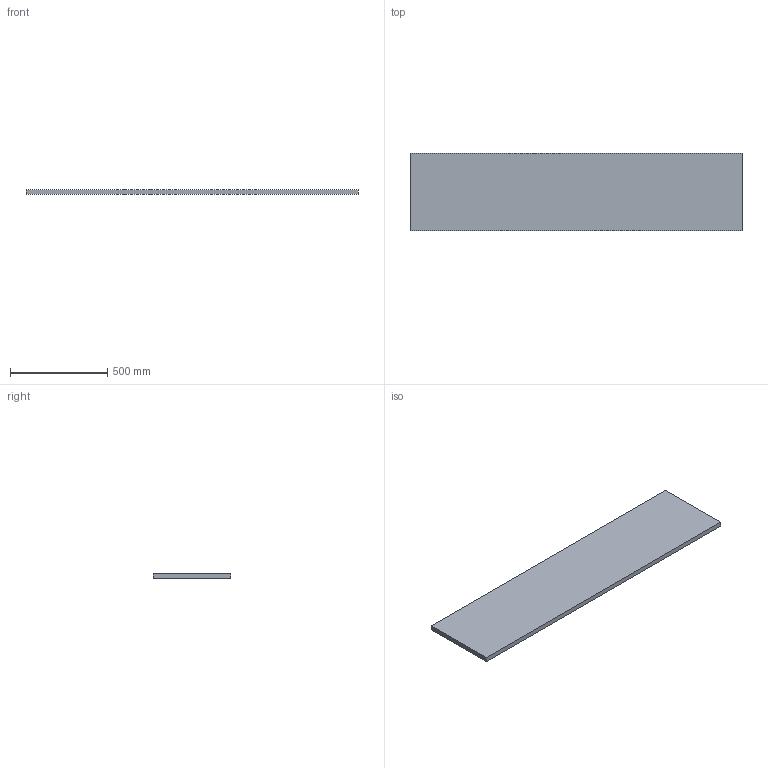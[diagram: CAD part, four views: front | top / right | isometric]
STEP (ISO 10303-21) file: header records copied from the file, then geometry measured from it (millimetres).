
FILE_DESCRIPTION (( 'STEP AP214' ), '1' );
FILE_NAME ('PCOPE0014.STEP', '2025-01-23T08:51:25', ( '' ), ( '' ), 'SwSTEP 2.0', 'SolidWorks 2022', '' );
FILE_SCHEMA (( 'AUTOMOTIVE_DESIGN' ));
Length unit declared in the file: millimetre
Products named in the file (1): PCOPE0014
Bounding box: 1705 x 400 x 25 mm (x, y, z)
Volume: 17050000 mm3; surface area: 1469250 mm2
Topology: 1 solids, 1 shells, 6 faces, 12 edges, 8 vertices
Faces by surface type: plane 6
Entity records: 190 total; most frequent: CARTESIAN_POINT 27, DIRECTION 26, ORIENTED_EDGE 24, LINE 12, VECTOR 12, EDGE_CURVE 12, VERTEX_POINT 8, AXIS2_PLACEMENT_3D 7
